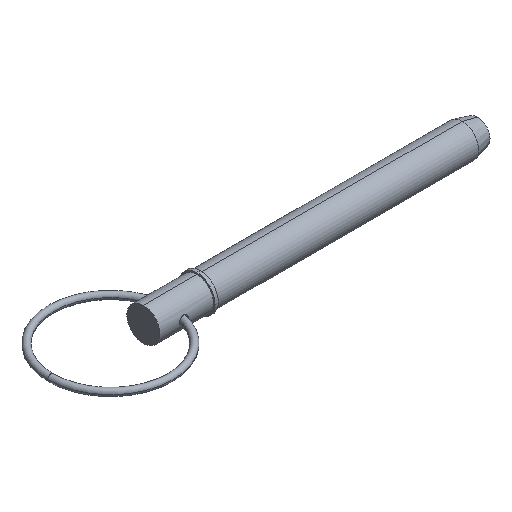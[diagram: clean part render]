
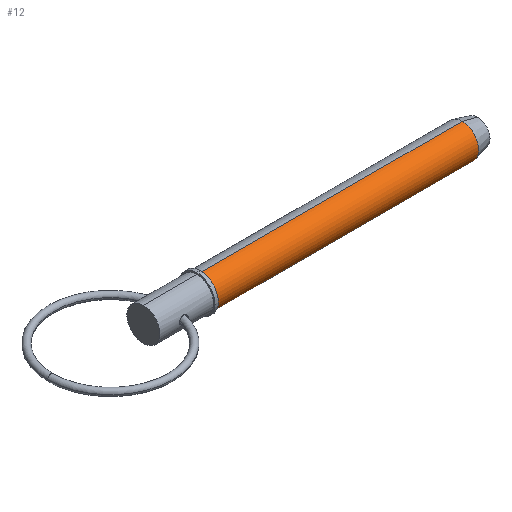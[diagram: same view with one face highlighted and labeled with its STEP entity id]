
A CAD part, isometric view. The second image highlights one B-rep face of the part: STEP entity #12.
In plain terms, the highlighted cylindrical face has radius 7.94 mm (diameter 15.88 mm), a partial arc.
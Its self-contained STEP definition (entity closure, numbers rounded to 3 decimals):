
#12 = ADVANCED_FACE ( 'NONE', ( #511 ), #332, .T. ) ;
#17 = LINE ( 'NONE', #758, #373 ) ;
#57 = ORIENTED_EDGE ( 'NONE', *, *, #349, .F. ) ;
#78 = LINE ( 'NONE', #1035, #549 ) ;
#96 = EDGE_CURVE ( 'NONE', #506, #408, #78, .T. ) ;
#102 = VERTEX_POINT ( 'NONE', #951 ) ;
#108 = DIRECTION ( 'NONE',  ( 0., 0., -1. ) ) ;
#134 = AXIS2_PLACEMENT_3D ( 'NONE', #995, #930, #108 ) ;
#181 = AXIS2_PLACEMENT_3D ( 'NONE', #666, #583, #500 ) ;
#199 = CIRCLE ( 'NONE', #134, 7.94 ) ;
#206 = DIRECTION ( 'NONE',  ( 1., 0., 0. ) ) ;
#214 = ORIENTED_EDGE ( 'NONE', *, *, #377, .F. ) ;
#273 = AXIS2_PLACEMENT_3D ( 'NONE', #397, #647, #872 ) ;
#315 = ORIENTED_EDGE ( 'NONE', *, *, #96, .T. ) ;
#332 = CYLINDRICAL_SURFACE ( 'NONE', #181, 7.94 ) ;
#349 = EDGE_CURVE ( 'NONE', #759, #102, #17, .T. ) ;
#373 = VECTOR ( 'NONE', #206, 1000. ) ;
#377 = EDGE_CURVE ( 'NONE', #102, #408, #409, .T. ) ;
#397 = CARTESIAN_POINT ( 'NONE',  ( 153.252, 0., 0. ) ) ;
#399 = EDGE_CURVE ( 'NONE', #759, #506, #199, .T. ) ;
#408 = VERTEX_POINT ( 'NONE', #513 ) ;
#409 = CIRCLE ( 'NONE', #273, 7.94 ) ;
#442 = CARTESIAN_POINT ( 'NONE',  ( 27.31, 0., -7.94 ) ) ;
#500 = DIRECTION ( 'NONE',  ( 0., 0., -1. ) ) ;
#506 = VERTEX_POINT ( 'NONE', #442 ) ;
#511 = FACE_OUTER_BOUND ( 'NONE', #653, .T. ) ;
#513 = CARTESIAN_POINT ( 'NONE',  ( 153.252, 0., -7.94 ) ) ;
#549 = VECTOR ( 'NONE', #628, 1000. ) ;
#583 = DIRECTION ( 'NONE',  ( 1., 0., 0. ) ) ;
#628 = DIRECTION ( 'NONE',  ( 1., 0., 0. ) ) ;
#647 = DIRECTION ( 'NONE',  ( 1., 0., 0. ) ) ;
#653 = EDGE_LOOP ( 'NONE', ( #57, #729, #315, #214 ) ) ;
#666 = CARTESIAN_POINT ( 'NONE',  ( 0., 0., 0. ) ) ;
#718 = CARTESIAN_POINT ( 'NONE',  ( 27.31, 0., 7.94 ) ) ;
#729 = ORIENTED_EDGE ( 'NONE', *, *, #399, .T. ) ;
#758 = CARTESIAN_POINT ( 'NONE',  ( 0., 0., 7.94 ) ) ;
#759 = VERTEX_POINT ( 'NONE', #718 ) ;
#872 = DIRECTION ( 'NONE',  ( 0., 0., -1. ) ) ;
#930 = DIRECTION ( 'NONE',  ( 1., 0., 0. ) ) ;
#951 = CARTESIAN_POINT ( 'NONE',  ( 153.252, 0., 7.94 ) ) ;
#995 = CARTESIAN_POINT ( 'NONE',  ( 27.31, 0., 0. ) ) ;
#1035 = CARTESIAN_POINT ( 'NONE',  ( 0., 0., -7.94 ) ) ;
